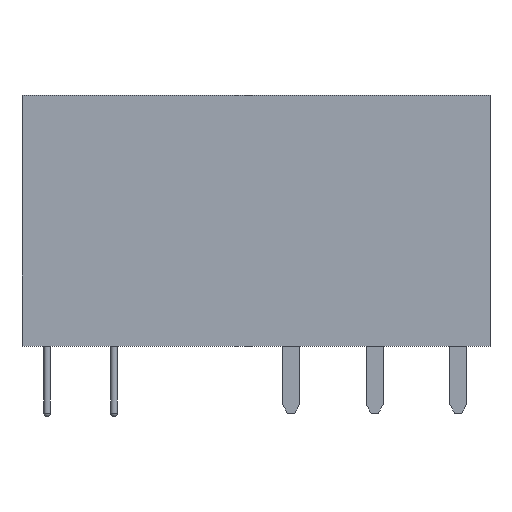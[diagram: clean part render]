
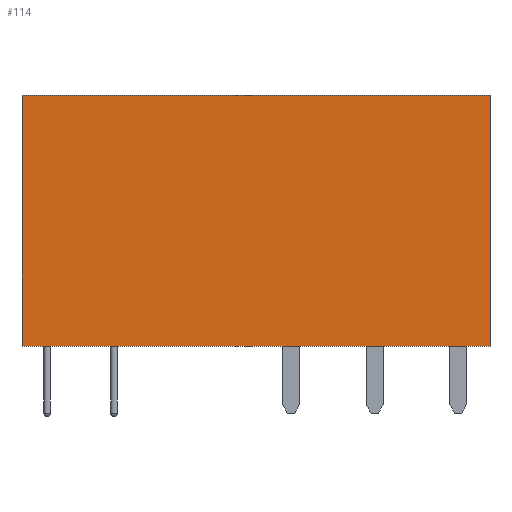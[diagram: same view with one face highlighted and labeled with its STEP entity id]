
A CAD part, top view. The second image highlights one B-rep face of the part: STEP entity #114.
In plain terms, the highlighted planar face has unit normal (0, 0, 1).
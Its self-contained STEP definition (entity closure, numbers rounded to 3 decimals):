
#12 = EDGE_CURVE ( 'NONE', #664, #831, #756, .T. ) ;
#22 = AXIS2_PLACEMENT_3D ( 'NONE', #48, #600, #382 ) ;
#41 = VERTEX_POINT ( 'NONE', #605 ) ;
#48 = CARTESIAN_POINT ( 'NONE',  ( 0., 0., 5. ) ) ;
#56 = DIRECTION ( 'NONE',  ( 0., 1., 0. ) ) ;
#60 = EDGE_LOOP ( 'NONE', ( #261, #741, #222, #612 ) ) ;
#99 = FACE_OUTER_BOUND ( 'NONE', #60, .T. ) ;
#114 = ADVANCED_FACE ( 'NONE', ( #99 ), #666, .F. ) ;
#118 = LINE ( 'NONE', #460, #660 ) ;
#133 = VECTOR ( 'NONE', #798, 1000. ) ;
#182 = EDGE_CURVE ( 'NONE', #546, #664, #587, .T. ) ;
#222 = ORIENTED_EDGE ( 'NONE', *, *, #12, .T. ) ;
#261 = ORIENTED_EDGE ( 'NONE', *, *, #435, .T. ) ;
#267 = VECTOR ( 'NONE', #673, 1000. ) ;
#334 = CARTESIAN_POINT ( 'NONE',  ( -14., 7.5, 5. ) ) ;
#382 = DIRECTION ( 'NONE',  ( -1., 0., 0. ) ) ;
#397 = DIRECTION ( 'NONE',  ( 1., 0., 0. ) ) ;
#435 = EDGE_CURVE ( 'NONE', #41, #546, #118, .T. ) ;
#438 = VECTOR ( 'NONE', #397, 1000. ) ;
#460 = CARTESIAN_POINT ( 'NONE',  ( 14., -7.5, 5. ) ) ;
#461 = CARTESIAN_POINT ( 'NONE',  ( 14., 7.5, 5. ) ) ;
#466 = LINE ( 'NONE', #738, #438 ) ;
#516 = CARTESIAN_POINT ( 'NONE',  ( -14., 7.5, 5. ) ) ;
#543 = CARTESIAN_POINT ( 'NONE',  ( -14., -7.5, 5. ) ) ;
#546 = VERTEX_POINT ( 'NONE', #461 ) ;
#562 = CARTESIAN_POINT ( 'NONE',  ( -14., -7.5, 5. ) ) ;
#563 = EDGE_CURVE ( 'NONE', #831, #41, #466, .T. ) ;
#587 = LINE ( 'NONE', #516, #133 ) ;
#600 = DIRECTION ( 'NONE',  ( 0., 0., -1. ) ) ;
#605 = CARTESIAN_POINT ( 'NONE',  ( 14., -7.5, 5. ) ) ;
#612 = ORIENTED_EDGE ( 'NONE', *, *, #563, .T. ) ;
#660 = VECTOR ( 'NONE', #56, 1000. ) ;
#664 = VERTEX_POINT ( 'NONE', #334 ) ;
#666 = PLANE ( 'NONE',  #22 ) ;
#673 = DIRECTION ( 'NONE',  ( 0., -1., 0. ) ) ;
#738 = CARTESIAN_POINT ( 'NONE',  ( -14., -7.5, 5. ) ) ;
#741 = ORIENTED_EDGE ( 'NONE', *, *, #182, .T. ) ;
#756 = LINE ( 'NONE', #543, #267 ) ;
#798 = DIRECTION ( 'NONE',  ( -1., 0., 0. ) ) ;
#831 = VERTEX_POINT ( 'NONE', #562 ) ;
